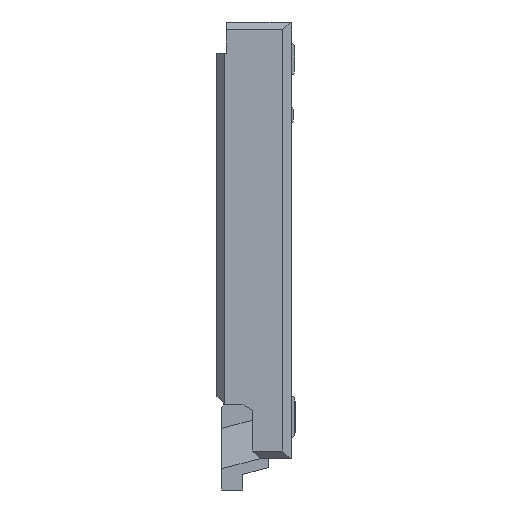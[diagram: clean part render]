
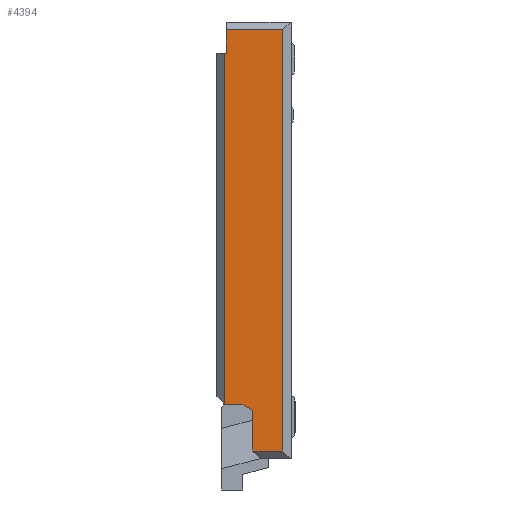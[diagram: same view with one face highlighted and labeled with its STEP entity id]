
A CAD part, left-side view. The second image highlights one B-rep face of the part: STEP entity #4394.
In plain terms, the highlighted planar face has unit normal (-1, 0, 0).
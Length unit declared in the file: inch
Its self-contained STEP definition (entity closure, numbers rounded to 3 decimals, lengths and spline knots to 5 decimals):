
#92 = LINE ( 'NONE', #7401, #15567 ) ;
#466 = LINE ( 'NONE', #5602, #7996 ) ;
#607 = AXIS2_PLACEMENT_3D ( 'NONE', #11805, #4291, #14826 ) ;
#1114 = LINE ( 'NONE', #19018, #16614 ) ;
#1123 = CARTESIAN_POINT ( 'NONE',  ( -0.09134, 0.00236, -0.00197 ) ) ;
#1132 = DIRECTION ( 'NONE',  ( 0., 1., 0. ) ) ;
#1283 = PLANE ( 'NONE',  #607 ) ;
#1404 = DIRECTION ( 'NONE',  ( 0., 0., 1. ) ) ;
#1872 = ORIENTED_EDGE ( 'NONE', *, *, #16859, .F. ) ;
#2112 = VERTEX_POINT ( 'NONE', #17313 ) ;
#2136 = ORIENTED_EDGE ( 'NONE', *, *, #12387, .T. ) ;
#2560 = DIRECTION ( 'NONE',  ( 0., 1., 0. ) ) ;
#3002 = ORIENTED_EDGE ( 'NONE', *, *, #18307, .T. ) ;
#3050 = VECTOR ( 'NONE', #8562, 39.37008 ) ;
#3386 = CARTESIAN_POINT ( 'NONE',  ( -0.09134, 0.01693, -0.00787 ) ) ;
#3461 = CARTESIAN_POINT ( 'NONE',  ( -0.09134, 0.00984, -0.09803 ) ) ;
#3723 = CARTESIAN_POINT ( 'NONE',  ( -0.09134, 0.00236, -0.10827 ) ) ;
#3760 = VERTEX_POINT ( 'NONE', #8622 ) ;
#3831 = VERTEX_POINT ( 'NONE', #19271 ) ;
#4029 = VECTOR ( 'NONE', #11047, 39.37008 ) ;
#4291 = DIRECTION ( 'NONE',  ( 1., 0., 0. ) ) ;
#4394 = ADVANCED_FACE ( 'NONE', ( #14390 ), #1283, .F. ) ;
#4737 = CARTESIAN_POINT ( 'NONE',  ( -0.09134, 0.01693, 0. ) ) ;
#5056 = VERTEX_POINT ( 'NONE', #5962 ) ;
#5250 = EDGE_CURVE ( 'NONE', #18382, #5056, #8892, .T. ) ;
#5602 = CARTESIAN_POINT ( 'NONE',  ( -0.09134, 0., -0.09646 ) ) ;
#5737 = EDGE_CURVE ( 'NONE', #3831, #13593, #15424, .T. ) ;
#5930 = EDGE_CURVE ( 'NONE', #16823, #2112, #15190, .T. ) ;
#5962 = CARTESIAN_POINT ( 'NONE',  ( -0.09134, 0.0126, -0.09646 ) ) ;
#6268 = DIRECTION ( 'NONE',  ( 0., 0., 1. ) ) ;
#6788 = CARTESIAN_POINT ( 'NONE',  ( -0.09134, 0.01929, -0.00197 ) ) ;
#6984 = VECTOR ( 'NONE', #6268, 39.37008 ) ;
#7042 = LINE ( 'NONE', #16017, #3050 ) ;
#7401 = CARTESIAN_POINT ( 'NONE',  ( -0.09134, 0.00236, 0. ) ) ;
#7996 = VECTOR ( 'NONE', #1132, 39.37008 ) ;
#8054 = EDGE_LOOP ( 'NONE', ( #13842, #10681, #2136, #19226, #14053, #11420, #16253, #1872, #3002 ) ) ;
#8293 = DIRECTION ( 'NONE',  ( 0., 1., 0. ) ) ;
#8562 = DIRECTION ( 'NONE',  ( 0., 0., 1. ) ) ;
#8622 = CARTESIAN_POINT ( 'NONE',  ( -0.09134, 0.01654, -0.00787 ) ) ;
#8892 = LINE ( 'NONE', #3461, #16374 ) ;
#9927 = EDGE_CURVE ( 'NONE', #5056, #3831, #466, .T. ) ;
#10681 = ORIENTED_EDGE ( 'NONE', *, *, #11432, .F. ) ;
#10715 = VERTEX_POINT ( 'NONE', #3723 ) ;
#11047 = DIRECTION ( 'NONE',  ( 0., 0., 1. ) ) ;
#11420 = ORIENTED_EDGE ( 'NONE', *, *, #5250, .F. ) ;
#11432 = EDGE_CURVE ( 'NONE', #3760, #2112, #7042, .T. ) ;
#11729 = DIRECTION ( 'NONE',  ( 0., 1., 0. ) ) ;
#11805 = CARTESIAN_POINT ( 'NONE',  ( -0.09134, 0., 0. ) ) ;
#12387 = EDGE_CURVE ( 'NONE', #3760, #13593, #1114, .T. ) ;
#12586 = LINE ( 'NONE', #14685, #16072 ) ;
#13098 = VERTEX_POINT ( 'NONE', #13816 ) ;
#13592 = CARTESIAN_POINT ( 'NONE',  ( -0.09134, 0.00984, -0.09803 ) ) ;
#13593 = VERTEX_POINT ( 'NONE', #3386 ) ;
#13816 = CARTESIAN_POINT ( 'NONE',  ( -0.09134, 0.00984, -0.10827 ) ) ;
#13842 = ORIENTED_EDGE ( 'NONE', *, *, #5930, .T. ) ;
#13996 = CARTESIAN_POINT ( 'NONE',  ( -0.09134, 0.00984, 0. ) ) ;
#14053 = ORIENTED_EDGE ( 'NONE', *, *, #9927, .F. ) ;
#14390 = FACE_OUTER_BOUND ( 'NONE', #8054, .T. ) ;
#14685 = CARTESIAN_POINT ( 'NONE',  ( -0.09134, 0., -0.10827 ) ) ;
#14826 = DIRECTION ( 'NONE',  ( 0., 0., -1. ) ) ;
#15190 = LINE ( 'NONE', #6788, #15650 ) ;
#15408 = DIRECTION ( 'NONE',  ( 0., 0.868, 0.496 ) ) ;
#15424 = LINE ( 'NONE', #4737, #6984 ) ;
#15567 = VECTOR ( 'NONE', #1404, 39.37008 ) ;
#15650 = VECTOR ( 'NONE', #8293, 39.37008 ) ;
#15982 = EDGE_CURVE ( 'NONE', #13098, #18382, #16476, .T. ) ;
#16017 = CARTESIAN_POINT ( 'NONE',  ( -0.09134, 0.01654, 0. ) ) ;
#16072 = VECTOR ( 'NONE', #11729, 39.37008 ) ;
#16253 = ORIENTED_EDGE ( 'NONE', *, *, #15982, .F. ) ;
#16374 = VECTOR ( 'NONE', #15408, 39.37008 ) ;
#16476 = LINE ( 'NONE', #13996, #4029 ) ;
#16614 = VECTOR ( 'NONE', #2560, 39.37008 ) ;
#16823 = VERTEX_POINT ( 'NONE', #1123 ) ;
#16859 = EDGE_CURVE ( 'NONE', #10715, #13098, #12586, .T. ) ;
#17313 = CARTESIAN_POINT ( 'NONE',  ( -0.09134, 0.01654, -0.00197 ) ) ;
#18307 = EDGE_CURVE ( 'NONE', #10715, #16823, #92, .T. ) ;
#18382 = VERTEX_POINT ( 'NONE', #13592 ) ;
#19018 = CARTESIAN_POINT ( 'NONE',  ( -0.09134, 0.03466, -0.00787 ) ) ;
#19226 = ORIENTED_EDGE ( 'NONE', *, *, #5737, .F. ) ;
#19271 = CARTESIAN_POINT ( 'NONE',  ( -0.09134, 0.01693, -0.09646 ) ) ;
